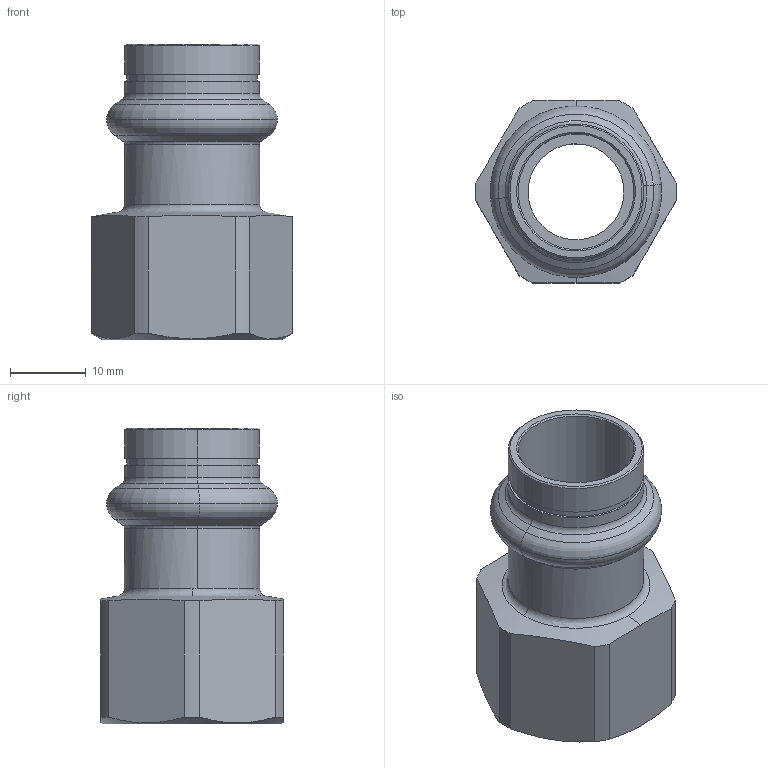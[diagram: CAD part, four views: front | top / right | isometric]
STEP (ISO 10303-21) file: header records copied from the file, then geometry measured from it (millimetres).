
FILE_DESCRIPTION(('CoCreate Modeling STEP Export'),'2;1');
FILE_NAME('8270GVW1512.stp','2013-03-05T11:05:35',(''),(''),'CoCreate Modeling STEP processor for AP214 (Solid Model)','CoCreate Modeling 17.00A 17-Jun-2010 (C) Parametric Technology GmbH','');
FILE_SCHEMA(('AUTOMOTIVE_DESIGN { 1 0 10303 214 1 1 1 1 }'));
Length unit declared in the file: millimetre
Products named in the file (2): 8270GVW1512
Assembly tree (1 placements, depth 2):
  8270GVW1512
    8270GVW1512
Bounding box: 26.59 x 24 x 39 mm (x, y, z)
Volume: 5483.7 mm3; surface area: 5618.2 mm2
Topology: 1 solids, 1 shells, 68 faces, 162 edges, 100 vertices
Faces by surface type: cylinder 26, cone 20, plane 12, torus 10
Entity records: 2356 total; most frequent: CARTESIAN_POINT 943, ORIENTED_EDGE 324, DIRECTION 234, EDGE_CURVE 162, VERTEX_POINT 100, AXIS2_PLACEMENT_3D 91, EDGE_LOOP 74, FACE_OUTER_BOUND 68
